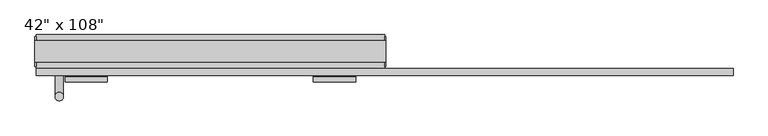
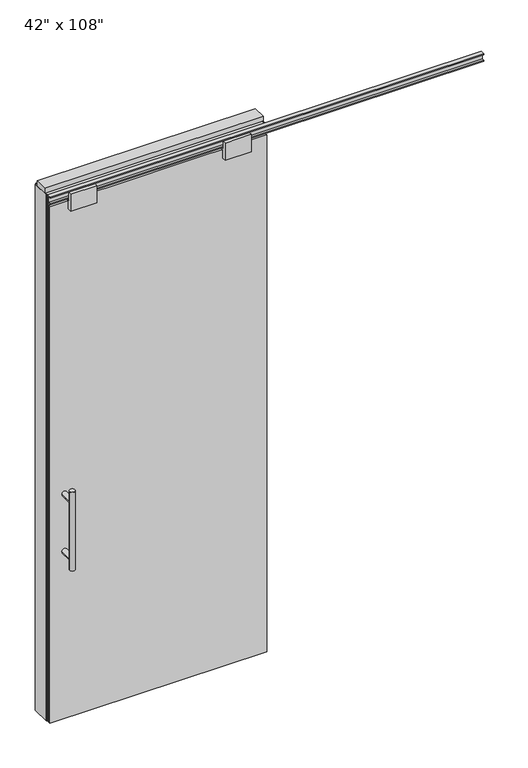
"""IFC4 building model written with IfcOpenShell, lengths in millimetres: furniture geometry."""

from ifc_helpers import new_model, si_unit, frame, origin, origin_with_axes, place, context, project, spatial, polyline, circle_curve, ellipse_curve, outline, extrude, source, transform, mapped, element, save
from ifc_brep_helpers import plane_surface, cylinder_surface, advanced_brep


def furniture_4e7281c9(model_context):
    return source(origin(), model_context, "Body", "SolidModel", [
        extrude(outline(polyline([(469.4264771, -74.3677216), (-589.4995229, -74.3677216), (-589.4995229, -64.2077216), (469.4264771, -64.2077216), (469.4264771, -74.3677216)])), origin_with_axes(), (0.0, 0.0, 1.0), 2670.81),
        advanced_brep(
        [(-532.2225229, 3.3562784, 1219.2), (-506.8225229, 3.3562784, 1219.2), (-532.2225229, 3.3562784, 812.8), (-506.8225229, 3.3562784, 812.8), (-506.8225229, 3.3562784, 1164.336), (-506.8225229, 3.3562784, 867.664), (-532.2225229, 3.3562784, 867.664), (-532.2225229, 3.3562784, 1164.336), (-532.2225229, -64.2077216, 1164.336), (-506.8225229, -64.2077216, 1164.336), (-532.2225229, -64.2077216, 867.664), (-506.8225229, -64.2077216, 867.664)],
        [
            (0, 1, circle_curve(frame((-519.5225229, 3.3562784, 1219.2), z_axis=(0.0, 0.0, 1.0), x_axis=(1.0, 0.0, 0.0)), 12.7)),
            (1, 0, circle_curve(frame((-519.5225229, 3.3562784, 1219.2), z_axis=(0.0, 0.0, 1.0), x_axis=(1.0, 0.0, 0.0)), 12.7)),
            (2, 3, circle_curve(frame((-519.5225229, 3.3562784, 812.8), z_axis=(0.0, 0.0, -1.0), x_axis=(1.0, 0.0, 0.0)), 12.7)),
            (3, 2, circle_curve(frame((-519.5225229, 3.3562784, 812.8), z_axis=(0.0, 0.0, -1.0), x_axis=(1.0, 0.0, 0.0)), 12.7)),
            (1, 4),
            (4, 5),
            (5, 3),
            (2, 6),
            (6, 7),
            (7, 0),
            (6, 5, ellipse_curve(frame((-519.5225229, 3.3562784, 867.664), z_axis=(0.0, 0.707106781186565, 0.70710678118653), x_axis=(0.0, -0.70710678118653, 0.707106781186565)), 17.9605122, 12.7)),
            (4, 7, ellipse_curve(frame((-519.5225229, 3.3562784, 1164.336), z_axis=(0.0, 0.70710678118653, -0.7071067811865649), x_axis=(0.0, 0.7071067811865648, 0.7071067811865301)), 17.9605122, 12.7)),
            (7, 4, ellipse_curve(frame((-519.5225229, 3.3562784, 1164.336), z_axis=(0.0, 0.707106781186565, 0.70710678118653), x_axis=(0.0, -0.70710678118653, 0.707106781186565)), 17.9605122, 12.7)),
            (5, 6, ellipse_curve(frame((-519.5225229, 3.3562784, 867.664), z_axis=(0.0, 0.70710678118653, -0.7071067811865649), x_axis=(0.0, 0.7071067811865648, 0.7071067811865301)), 17.9605122, 12.7)),
            (8, 9, circle_curve(frame((-519.5225229, -64.2077216, 1164.336), z_axis=(0.0, -1.0, 0.0), x_axis=(1.0, 0.0, 0.0)), 12.7)),
            (9, 8, circle_curve(frame((-519.5225229, -64.2077216, 1164.336), z_axis=(0.0, -1.0, 0.0), x_axis=(1.0, 0.0, 0.0)), 12.7)),
            (8, 7),
            (4, 9),
            (10, 11, circle_curve(frame((-519.5225229, -64.2077216, 867.664), z_axis=(0.0, -1.0, 0.0), x_axis=(1.0, 0.0, 0.0)), 12.7)),
            (11, 10, circle_curve(frame((-519.5225229, -64.2077216, 867.664), z_axis=(0.0, -1.0, 0.0), x_axis=(1.0, 0.0, 0.0)), 12.7)),
            (10, 6),
            (5, 11),
        ],
        [
            plane_surface(frame((-506.8225229, 3.3562784, 1219.2), z_axis=(0.0, 0.0, 1.0), x_axis=(0.0, -1.0, 0.0))),
            plane_surface(frame((-506.8225229, 3.3562784, 812.8), z_axis=(0.0, 0.0, -1.0), x_axis=(0.0, 1.0, 0.0))),
            cylinder_surface(frame((-519.5225229, 3.3562784, 812.8), z_axis=(0.0, 0.0, 1.0), x_axis=(1.0, 0.0, 0.0)), 12.7),
            plane_surface(frame((-506.8225229, -64.2077216, 1164.336), z_axis=(0.0, -1.0, 0.0), x_axis=(0.0, 0.0, -1.0))),
            cylinder_surface(frame((-519.5225229, -64.2077216, 1164.336), z_axis=(0.0, 1.0, 0.0), x_axis=(1.0, 0.0, 0.0)), 12.7),
            plane_surface(frame((-506.8225229, -64.2077216, 867.664), z_axis=(0.0, -1.0, 0.0), x_axis=(0.0, 0.0, -1.0))),
            cylinder_surface(frame((-519.5225229, -64.2077216, 867.664), z_axis=(0.0, 1.0, 0.0), x_axis=(1.0, 0.0, 0.0)), 12.7),
        ],
        [
            (0, [[1, 2]]),
            (1, [[3, 4]]),
            (2, [[5, 6, 7, -3, 8, 9, 10, -2]]),
            (2, [[-9, 11, -6, 12]]),
            (2, [[-10, 13, -5, -1]]),
            (2, [[-7, 14, -8, -4]]),
            (3, [[15, 16]]),
            (4, [[17, -12, 18, -15]]),
            (4, [[-18, -13, -17, -16]]),
            (5, [[19, 20]]),
            (6, [[21, -14, 22, -19]]),
            (6, [[-22, -11, -21, -20]]),
        ],
    ),
        advanced_brep(
        [(-532.2225229, -141.9317216, 1219.2), (-506.8225229, -141.9317216, 1219.2), (-532.2225229, -141.9317216, 812.8), (-506.8225229, -141.9317216, 812.8), (-532.2225229, -141.9317216, 1164.336), (-532.2225229, -141.9317216, 867.664), (-506.8225229, -141.9317216, 867.664), (-506.8225229, -141.9317216, 1164.336), (-532.2225229, -74.3677216, 1164.336), (-506.8225229, -74.3677216, 1164.336), (-532.2225229, -74.3677216, 867.664), (-506.8225229, -74.3677216, 867.664)],
        [
            (0, 1, circle_curve(frame((-519.5225229, -141.9317216, 1219.2), z_axis=(0.0, 0.0, 1.0), x_axis=(1.0, 0.0, 0.0)), 12.7)),
            (1, 0, circle_curve(frame((-519.5225229, -141.9317216, 1219.2), z_axis=(0.0, 0.0, 1.0), x_axis=(1.0, 0.0, 0.0)), 12.7)),
            (2, 3, circle_curve(frame((-519.5225229, -141.9317216, 812.8), z_axis=(0.0, 0.0, -1.0), x_axis=(1.0, 0.0, 0.0)), 12.7)),
            (3, 2, circle_curve(frame((-519.5225229, -141.9317216, 812.8), z_axis=(0.0, 0.0, -1.0), x_axis=(1.0, 0.0, 0.0)), 12.7)),
            (0, 4),
            (4, 5),
            (5, 2),
            (3, 6),
            (6, 7),
            (7, 1),
            (7, 4, ellipse_curve(frame((-519.5225229, -141.9317216, 1164.336), z_axis=(0.0, -0.707106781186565, 0.70710678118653), x_axis=(0.0, 0.70710678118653, 0.707106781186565)), 17.9605122, 12.7)),
            (5, 6, ellipse_curve(frame((-519.5225229, -141.9317216, 867.664), z_axis=(0.0, -0.70710678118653, -0.7071067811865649), x_axis=(0.0, -0.7071067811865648, 0.7071067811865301)), 17.9605122, 12.7)),
            (4, 7, ellipse_curve(frame((-519.5225229, -141.9317216, 1164.336), z_axis=(0.0, -0.70710678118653, -0.7071067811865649), x_axis=(0.0, -0.7071067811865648, 0.7071067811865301)), 17.9605122, 12.7)),
            (6, 5, ellipse_curve(frame((-519.5225229, -141.9317216, 867.664), z_axis=(0.0, -0.707106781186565, 0.70710678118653), x_axis=(0.0, 0.70710678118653, 0.707106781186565)), 17.9605122, 12.7)),
            (8, 9, circle_curve(frame((-519.5225229, -74.3677216, 1164.336), z_axis=(0.0, 1.0, 0.0), x_axis=(1.0, 0.0, 0.0)), 12.7)),
            (9, 8, circle_curve(frame((-519.5225229, -74.3677216, 1164.336), z_axis=(0.0, 1.0, 0.0), x_axis=(1.0, 0.0, 0.0)), 12.7)),
            (9, 7),
            (4, 8),
            (10, 11, circle_curve(frame((-519.5225229, -74.3677216, 867.664), z_axis=(0.0, 1.0, 0.0), x_axis=(1.0, 0.0, 0.0)), 12.7)),
            (11, 10, circle_curve(frame((-519.5225229, -74.3677216, 867.664), z_axis=(0.0, 1.0, 0.0), x_axis=(1.0, 0.0, 0.0)), 12.7)),
            (11, 6),
            (5, 10),
        ],
        [
            plane_surface(frame((-506.8225229, -141.9317216, 1219.2), z_axis=(0.0, 0.0, 1.0), x_axis=(0.0, 1.0, 0.0))),
            plane_surface(frame((-506.8225229, -141.9317216, 812.8), z_axis=(0.0, 0.0, -1.0), x_axis=(0.0, -1.0, 0.0))),
            cylinder_surface(frame((-519.5225229, -141.9317216, 812.8), z_axis=(0.0, 0.0, 1.0), x_axis=(1.0, 0.0, 0.0)), 12.7),
            plane_surface(frame((-506.8225229, -74.3677216, 1164.336), z_axis=(0.0, 1.0, 0.0), x_axis=(0.0, 0.0, -1.0))),
            cylinder_surface(frame((-519.5225229, -74.3677216, 1164.336), z_axis=(0.0, -1.0, 0.0), x_axis=(1.0, 0.0, 0.0)), 12.7),
            plane_surface(frame((-506.8225229, -74.3677216, 867.664), z_axis=(0.0, 1.0, 0.0), x_axis=(0.0, 0.0, -1.0))),
            cylinder_surface(frame((-519.5225229, -74.3677216, 867.664), z_axis=(0.0, -1.0, 0.0), x_axis=(1.0, 0.0, 0.0)), 12.7),
        ],
        [
            (0, [[1, 2]]),
            (1, [[3, 4]]),
            (2, [[-1, 5, 6, 7, -4, 8, 9, 10]]),
            (2, [[-2, -10, 11, -5]]),
            (2, [[-3, -7, 12, -8]]),
            (2, [[13, -9, 14, -6]]),
            (3, [[15, 16]]),
            (4, [[-16, 17, -13, 18]]),
            (4, [[-15, -18, -11, -17]]),
            (5, [[19, 20]]),
            (6, [[-20, 21, -12, 22]]),
            (6, [[-19, -22, -14, -21]]),
        ],
    ),
        extrude(outline(polyline([(-63.1282216, 2628.9), (-63.1282216, 2670.81), (-75.4472216, 2670.81), (-75.4472216, 2628.9), (-97.6722216, 2628.9), (-97.6722216, 2717.8), (-82.1782216, 2717.8), (-82.1782216, 2676.779), (-59.5722216, 2676.779), (-59.5722216, 2628.9), (-63.1282216, 2628.9)])), frame((-501.2345229, 0.0, 0.0), z_axis=(1.0, 0.0, 0.0), x_axis=(0.0, 1.0, 0.0)), (0.0, 0.0, 1.0), 128.016),
        extrude(outline(polyline([(-63.1282216, 2628.9), (-63.1282216, 2670.81), (-75.4472216, 2670.81), (-75.4472216, 2628.9), (-97.6722216, 2628.9), (-97.6722216, 2717.8), (-82.1782216, 2717.8), (-82.1782216, 2676.779), (-59.5722216, 2676.779), (-59.5722216, 2628.9), (-63.1282216, 2628.9)])), frame((253.1454771, 0.0, 0.0), z_axis=(1.0, 0.0, 0.0), x_axis=(0.0, 1.0, 0.0)), (0.0, 0.0, 1.0), 128.016),
        extrude(outline(polyline([(-77.9237216, 2681.478), (-77.9237216, 2686.812), (-65.2237216, 2686.812), (-65.2237216, 2715.768), (-77.9237216, 2715.768), (-77.9237216, 2721.102), (-56.2067216, 2721.102), (-56.2067216, 2681.478), (-77.9237216, 2681.478)])), frame((-589.4995229, 0.0, 0.0), z_axis=(1.0, 0.0, 0.0), x_axis=(0.0, 1.0, 0.0)), (0.0, 0.0, 1.0), 2117.852),
        extrude(outline(polyline([(-589.4995229, -55.3177216), (-589.4995229, 46.2822784), (469.4264771, 46.2822784), (469.4264771, -55.3177216), (-589.4995229, -55.3177216)])), frame((0.0, 0.0, 2654.3), z_axis=(0.0, 0.0, 1.0), x_axis=(1.0, 0.0, 0.0)), (0.0, 0.0, 1.0), 22.225),
        extrude(outline(polyline([(473.3634771, -50.3647216), (469.4264771, -50.3647216), (469.4264771, 41.3292784), (473.3634771, 41.3292784), (473.3634771, -50.3647216)])), origin_with_axes(), (0.0, 0.0, 1.0), 2717.8),
        extrude(outline(polyline([(-593.4365229, -50.3647216), (-593.4365229, 41.3292784), (-589.4995229, 41.3292784), (-589.4995229, -50.3647216), (-593.4365229, -50.3647216)])), origin_with_axes(), (0.0, 0.0, 1.0), 2717.8),
        extrude(outline(polyline([(447.2014771, -55.3177216), (447.2014771, 46.2822784), (469.4264771, 46.2822784), (469.4264771, -55.3177216), (447.2014771, -55.3177216)])), origin_with_axes(), (0.0, 0.0, 1.0), 2654.3),
        extrude(outline(polyline([(-567.2745229, -55.3177216), (-589.4995229, -55.3177216), (-589.4995229, 46.2822784), (-567.2745229, 46.2822784), (-567.2745229, -55.3177216)])), origin_with_axes(), (0.0, 0.0, 1.0), 2654.3),
        extrude(outline(polyline([(-55.3177216, 2681.478), (-55.3177216, 2717.8), (46.2822784, 2717.8), (46.2822784, 2681.478), (41.3292784, 2681.478), (41.3292784, 2676.525), (-50.3647216, 2676.525), (-50.3647216, 2681.478), (-55.3177216, 2681.478)])), frame((-589.4995229, 0.0, 0.0), z_axis=(1.0, 0.0, 0.0), x_axis=(0.0, 1.0, 0.0)), (0.0, 0.0, 1.0), 1058.926),
        extrude(outline(polyline([(-593.4365229, -37.0297216), (-593.4365229, 27.9942784), (473.3634771, 27.9942784), (473.3634771, -37.0297216), (-593.4365229, -37.0297216)])), frame((0.0, 0.0, 2717.8), z_axis=(0.0, 0.0, 1.0), x_axis=(1.0, 0.0, 0.0)), (0.0, 0.0, 1.0), 25.4),
    ])


if __name__ == "__main__":
    model = new_model("IFC4")
    model_context = context("Model", 3, world=origin())
    ifc_project = project(units=[si_unit("LENGTHUNIT", "METRE", prefix="MILLI")], contexts=[model_context])
    site = spatial("IfcSite", under=ifc_project)
    building = spatial("IfcBuilding", under=site)
    placement = place(None, origin())
    furniture_shape = furniture_4e7281c9(model_context)
    element("IfcFurniture", 1, ObjectType="Haworth_EncloseFrameless_Door_SingleSliding : 42\" x 108\"", at=placement, inside=building, context=model_context, shape_type="MappedRepresentation", body=[
        mapped(furniture_shape, transform((0.0, 0.0, 0.0), x_axis=(1.0, 0.0, 0.0), y_axis=(0.0, 1.0, 0.0), z_axis=(0.0, 0.0, 1.0))),
    ])
    save(model, "model.ifc")
